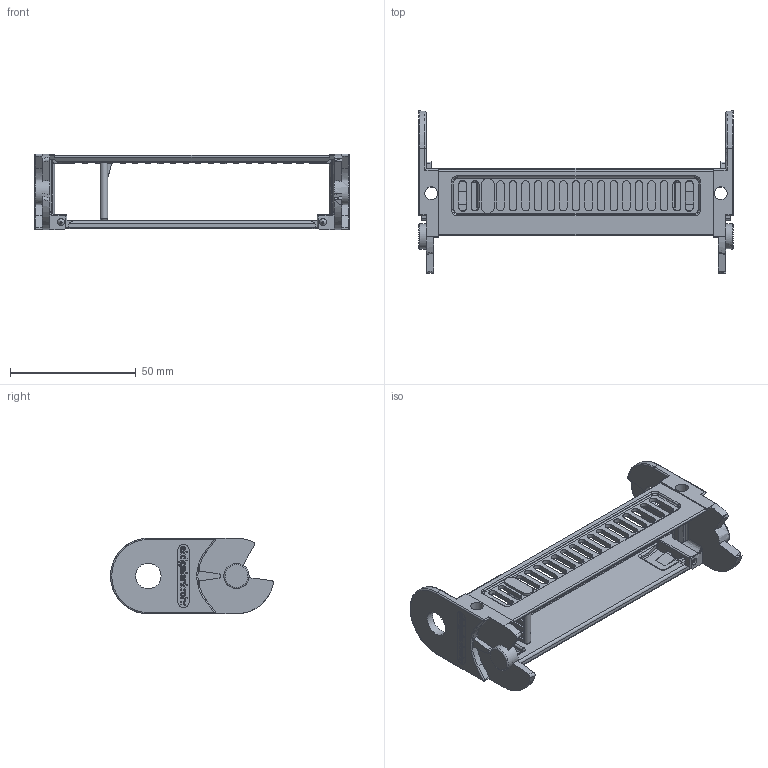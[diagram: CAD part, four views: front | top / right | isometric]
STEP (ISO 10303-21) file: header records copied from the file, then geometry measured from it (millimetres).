
FILE_DESCRIPTION((''),'2;1');
FILE_NAME('C:\Uebbing\PARAMETERKETTEN\KOLIBRI\Kol_30_125_1\Kol_30_125_1.stp','2011-11-02T12:41:05',('Uebbing'),(''),'Autodesk Inventor 10','Autodesk Inventor 10','');
FILE_SCHEMA(('AUTOMOTIVE_DESIGN { 1 0 10303 214 1 1 1 1 }'));
Length unit declared in the file: millimetre
Products named in the file (4): Kol_30_125_1; PZ 30 Stecksteg; Kol 30_125_1 Lasche; Kol_30_125_0_Klappsteg
Assembly tree (3 placements, depth 2):
  Kol_30_125_1
    PZ 30 Stecksteg
    Kol 30_125_1 Lasche
    Kol_30_125_0_Klappsteg
Bounding box: 125 x 64.71 x 30 mm (x, y, z)
Volume: 22529.2 mm3; surface area: 22754.9 mm2
Topology: 3 solids, 3 shells, 780 faces, 2194 edges, 1426 vertices
Faces by surface type: plane 388, bspline 186, cylinder 173, torus 24, cone 6, sphere 3
Full cylindrical faces by diameter (mm): 1.166 x1, 2.048 x1, 2.8 x6, 5.1 x1, 10 x1, 10.1 x1
Entity records: 28013 total; most frequent: CARTESIAN_POINT 8057, ORIENTED_EDGE 4320, DIRECTION 3920, EDGE_CURVE 2160, VECTOR 1442, LINE 1442, VERTEX_POINT 1422, AXIS2_PLACEMENT_3D 1239
